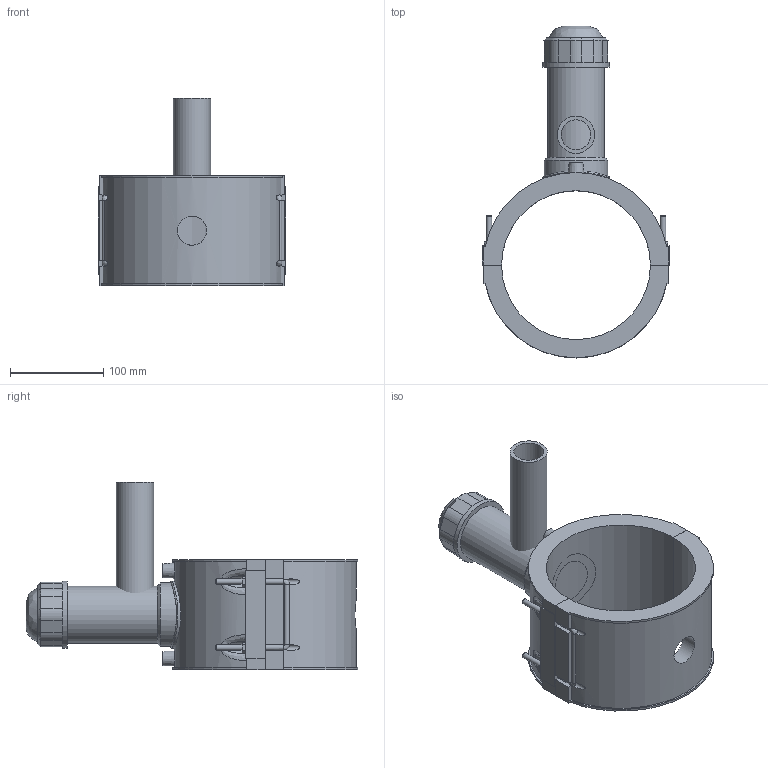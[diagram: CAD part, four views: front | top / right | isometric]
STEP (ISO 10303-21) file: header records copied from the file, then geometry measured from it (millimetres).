
FILE_DESCRIPTION(/* description */ (''),/* implementation_level */ '2;1');
FILE_NAME(/* name */ 'C:\Dropbox\KIMPROJECTS-Inventor 2019\99-16-3568-Processing\ElectroFusion Fittings\4963P4\stp\4963P4160040.stp',/* time_stamp */ '2022-03-17T11:30:14+02:00',/* author */ ('KIM'),/* organization */ (''),/* preprocessor_version */ 'ST-DEVELOPER v17.2',/* originating_system */ 'Autodesk Inventor 2019',/* authorisation */ '');
FILE_SCHEMA (('AUTOMOTIVE_DESIGN { 1 0 10303 214 3 1 1 }'));
Length unit declared in the file: millimetre
Products named in the file (1): 4963P4160040
Bounding box: 201 x 356.55 x 201 mm (x, y, z)
Volume: 1555645.7 mm3; surface area: 273787.1 mm2
Topology: 3 solids, 3 shells, 194 faces, 503 edges, 329 vertices
Faces by surface type: plane 118, cylinder 51, cone 15, bspline 10
Full cylindrical faces by diameter (mm): 4 x2, 6 x8, 10 x2, 31.36 x1, 32 x1, 40 x1, 50.4 x1, 61.2 x1, 68.4 x1, 72 x2
Entity records: 7276 total; most frequent: CARTESIAN_POINT 2484, ORIENTED_EDGE 1006, DIRECTION 946, EDGE_CURVE 503, VERTEX_POINT 329, AXIS2_PLACEMENT_3D 319, LINE 308, VECTOR 308
